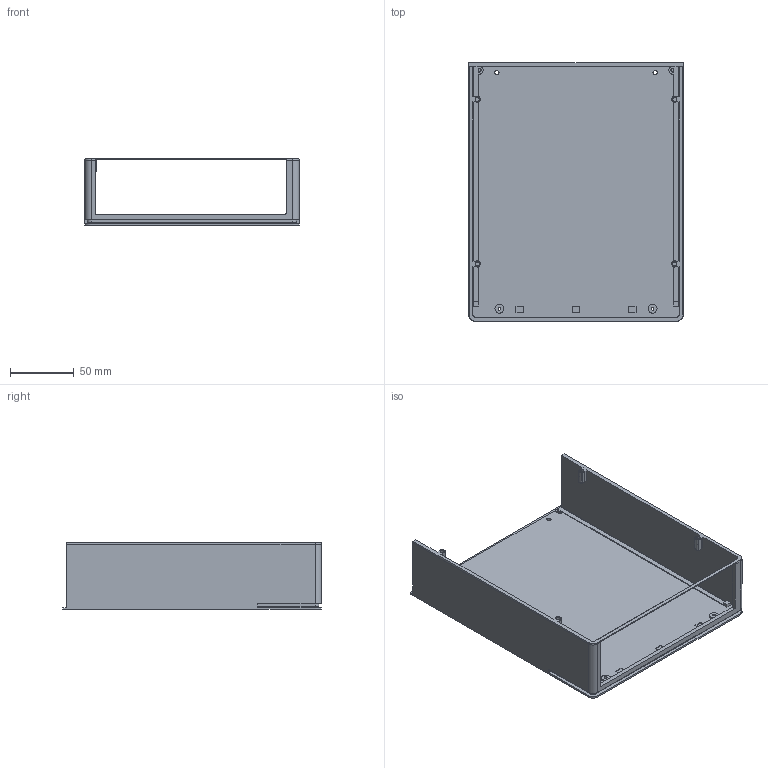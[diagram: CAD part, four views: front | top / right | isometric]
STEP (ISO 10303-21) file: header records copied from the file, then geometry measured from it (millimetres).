
FILE_DESCRIPTION(('Open CASCADE Model'),'2;1');
FILE_NAME('Open CASCADE Shape Model','2026-11-07T21:51:45',('Author'),( 'Open CASCADE'),'Open CASCADE STEP processor 7.9','Open CASCADE 7.9' ,'Unknown');
FILE_SCHEMA(('AUTOMOTIVE_DESIGN { 1 0 10303 214 1 1 1 1 }'));
Length unit declared in the file: millimetre
Products named in the file (1): Open CASCADE STEP translator 7.9 1
Bounding box: 168 x 203 x 52.2 mm (x, y, z)
Volume: 161936.4 mm3; surface area: 116998.3 mm2
Topology: 1 solids, 1 shells, 156 faces, 416 edges, 276 vertices
Faces by surface type: plane 109, cylinder 43, revolution 2, cone 2
Full cylindrical faces by diameter (mm): 2.2 x2, 3.23 x4, 3.3 x2, 7 x2
Entity records: 10349 total; most frequent: CARTESIAN_POINT 2297, DIRECTION 1391, LINE 840, VECTOR 840, ORIENTED_EDGE 832, PCURVE 832, DEFINITIONAL_REPRESENTATION 832, EDGE_CURVE 416
